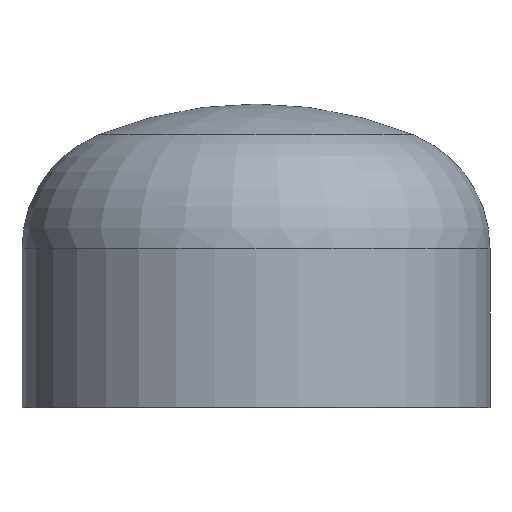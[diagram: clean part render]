
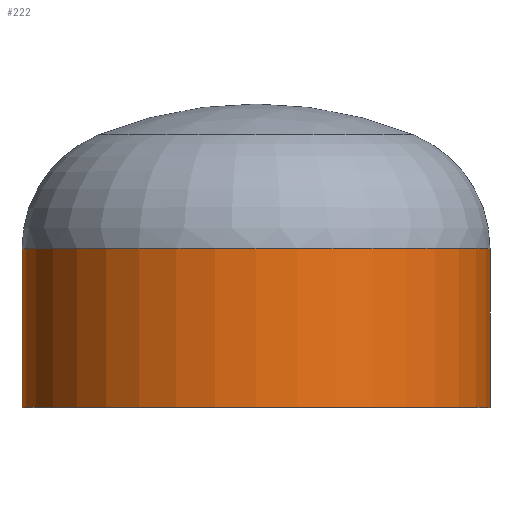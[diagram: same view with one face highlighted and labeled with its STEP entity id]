
A CAD part, top view. The second image highlights one B-rep face of the part: STEP entity #222.
In plain terms, the highlighted cylindrical face has radius 161.95 mm (diameter 323.9 mm), a partial arc.
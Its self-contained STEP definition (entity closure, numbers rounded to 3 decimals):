
#7 = ORIENTED_EDGE ( 'NONE', *, *, #250, .F. ) ;
#9 = EDGE_LOOP ( 'NONE', ( #76, #23, #7, #125 ) ) ;
#19 = CIRCLE ( 'NONE', #50, 161.95 ) ;
#23 = ORIENTED_EDGE ( 'NONE', *, *, #83, .T. ) ;
#25 = VERTEX_POINT ( 'NONE', #326 ) ;
#32 = AXIS2_PLACEMENT_3D ( 'NONE', #248, #275, #105 ) ;
#33 = CARTESIAN_POINT ( 'NONE',  ( 0., 0., 0. ) ) ;
#50 = AXIS2_PLACEMENT_3D ( 'NONE', #33, #276, #109 ) ;
#51 = VERTEX_POINT ( 'NONE', #310 ) ;
#67 = AXIS2_PLACEMENT_3D ( 'NONE', #290, #289, #292 ) ;
#73 = EDGE_CURVE ( 'NONE', #51, #141, #132, .T. ) ;
#76 = ORIENTED_EDGE ( 'NONE', *, *, #73, .T. ) ;
#83 = EDGE_CURVE ( 'NONE', #141, #351, #327, .T. ) ;
#102 = VECTOR ( 'NONE', #387, 1000. ) ;
#105 = DIRECTION ( 'NONE',  ( 1., 0., 0. ) ) ;
#109 = DIRECTION ( 'NONE',  ( 1., 0., 0. ) ) ;
#125 = ORIENTED_EDGE ( 'NONE', *, *, #376, .F. ) ;
#132 = CIRCLE ( 'NONE', #67, 161.95 ) ;
#141 = VERTEX_POINT ( 'NONE', #363 ) ;
#174 = CYLINDRICAL_SURFACE ( 'NONE', #32, 161.95 ) ;
#189 = VECTOR ( 'NONE', #221, 1000. ) ;
#203 = CARTESIAN_POINT ( 'NONE',  ( -161.95, 0., 0. ) ) ;
#221 = DIRECTION ( 'NONE',  ( 0., -1., 0. ) ) ;
#222 = ADVANCED_FACE ( 'NONE', ( #374 ), #174, .T. ) ;
#248 = CARTESIAN_POINT ( 'NONE',  ( 0., 0., 0. ) ) ;
#250 = EDGE_CURVE ( 'NONE', #25, #351, #19, .T. ) ;
#258 = LINE ( 'NONE', #367, #102 ) ;
#275 = DIRECTION ( 'NONE',  ( 0., -1., 0. ) ) ;
#276 = DIRECTION ( 'NONE',  ( 0., -1., 0. ) ) ;
#289 = DIRECTION ( 'NONE',  ( 0., -1., 0. ) ) ;
#290 = CARTESIAN_POINT ( 'NONE',  ( 0., 110., 0. ) ) ;
#292 = DIRECTION ( 'NONE',  ( 1., 0., 0. ) ) ;
#308 = CARTESIAN_POINT ( 'NONE',  ( -161.95, 0., 0. ) ) ;
#310 = CARTESIAN_POINT ( 'NONE',  ( 161.95, 110., 0. ) ) ;
#326 = CARTESIAN_POINT ( 'NONE',  ( 161.95, 0., 0. ) ) ;
#327 = LINE ( 'NONE', #203, #189 ) ;
#351 = VERTEX_POINT ( 'NONE', #308 ) ;
#363 = CARTESIAN_POINT ( 'NONE',  ( -161.95, 110., 0. ) ) ;
#367 = CARTESIAN_POINT ( 'NONE',  ( 161.95, 0., 0. ) ) ;
#374 = FACE_OUTER_BOUND ( 'NONE', #9, .T. ) ;
#376 = EDGE_CURVE ( 'NONE', #51, #25, #258, .T. ) ;
#387 = DIRECTION ( 'NONE',  ( 0., -1., 0. ) ) ;
